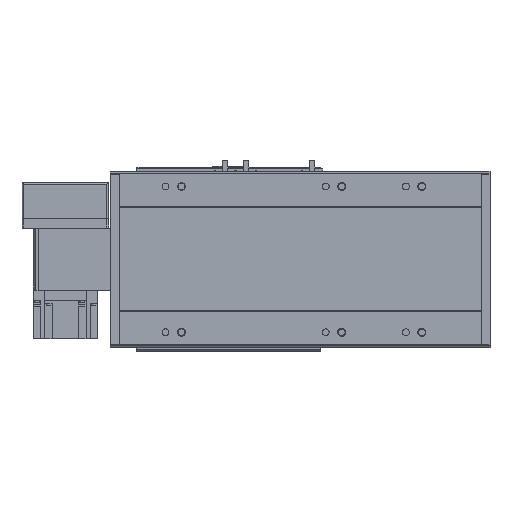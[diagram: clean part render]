
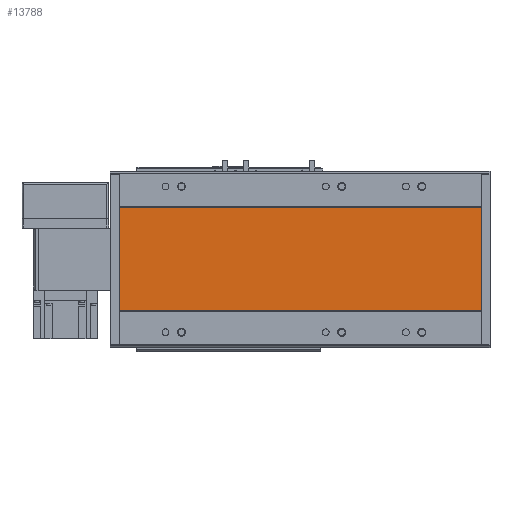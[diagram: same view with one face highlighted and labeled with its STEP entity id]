
A CAD part, front view. The second image highlights one B-rep face of the part: STEP entity #13788.
In plain terms, the highlighted planar face has unit normal (0, -1, 0).
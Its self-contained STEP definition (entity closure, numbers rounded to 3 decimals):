
#3067=ORIENTED_EDGE('',*,*,#6180,.T.);
#3068=ORIENTED_EDGE('',*,*,#6181,.F.);
#3069=ORIENTED_EDGE('',*,*,#6182,.F.);
#3070=ORIENTED_EDGE('',*,*,#6178,.T.);
#6178=EDGE_CURVE('',#7857,#7856,#9098,.T.);
#6180=EDGE_CURVE('',#7856,#7858,#9099,.T.);
#6181=EDGE_CURVE('',#7859,#7858,#9100,.T.);
#6182=EDGE_CURVE('',#7857,#7859,#9101,.T.);
#7856=VERTEX_POINT('',#22649);
#7857=VERTEX_POINT('',#22651);
#7858=VERTEX_POINT('',#22655);
#7859=VERTEX_POINT('',#22657);
#9098=LINE('',#22650,#10433);
#9099=LINE('',#22654,#10434);
#9100=LINE('',#22656,#10435);
#9101=LINE('',#22658,#10436);
#10433=VECTOR('',#18173,1000.);
#10434=VECTOR('',#18178,1000.);
#10435=VECTOR('',#18179,1000.);
#10436=VECTOR('',#18180,1000.);
#11374=EDGE_LOOP('',(#3067,#3068,#3069,#3070));
#12373=FACE_BOUND('',#11374,.T.);
#13147=PLANE('',#15034);
#13788=ADVANCED_FACE('',(#12373),#13147,.F.);
#15034=AXIS2_PLACEMENT_3D('',#22653,#18176,#18177);
#18173=DIRECTION('',(-1.,0.,0.));
#18176=DIRECTION('',(0.,1.,0.));
#18177=DIRECTION('',(0.,0.,1.));
#18178=DIRECTION('',(0.,0.,-1.));
#18179=DIRECTION('',(-1.,0.,0.));
#18180=DIRECTION('',(0.,0.,-1.));
#22649=CARTESIAN_POINT('',(12.,1.,64.294));
#22650=CARTESIAN_POINT('',(464.,1.,64.294));
#22651=CARTESIAN_POINT('',(464.,1.,64.294));
#22653=CARTESIAN_POINT('',(464.,1.,64.294));
#22654=CARTESIAN_POINT('',(12.,1.,64.294));
#22655=CARTESIAN_POINT('',(12.,1.,-64.294));
#22656=CARTESIAN_POINT('',(464.,1.,-64.294));
#22657=CARTESIAN_POINT('',(464.,1.,-64.294));
#22658=CARTESIAN_POINT('',(464.,1.,64.294));
